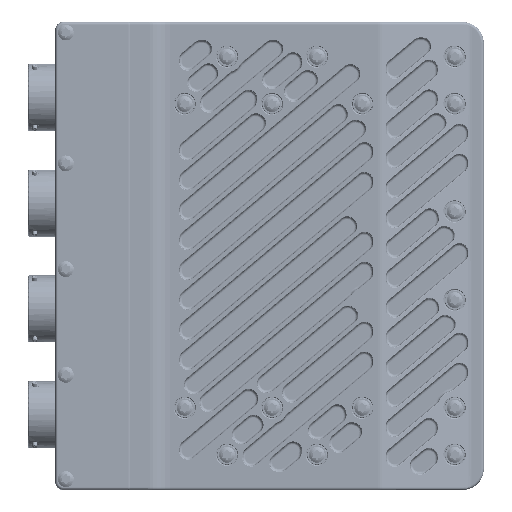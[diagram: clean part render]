
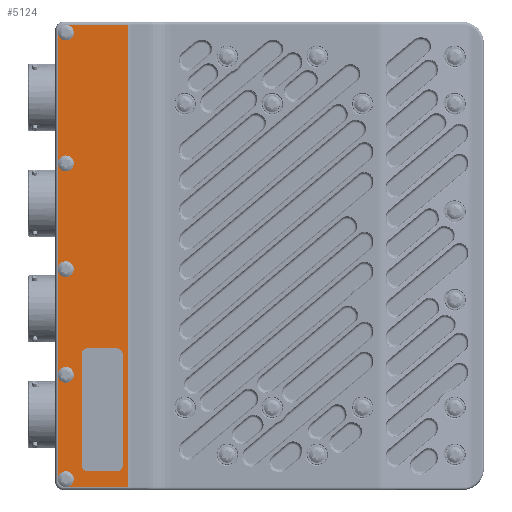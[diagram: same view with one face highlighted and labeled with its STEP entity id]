
A CAD part, top view. The second image highlights one B-rep face of the part: STEP entity #5124.
In plain terms, the highlighted planar face has unit normal (0, 0, 1).
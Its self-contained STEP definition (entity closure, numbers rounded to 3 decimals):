
#4895=AXIS2_PLACEMENT_3D('Plane Axis2P3D',#4892,#4893,#4894) ;
#4908=AXIS2_PLACEMENT_3D('Circle Axis2P3D',#4906,#4907,$) ;
#4915=AXIS2_PLACEMENT_3D('Circle Axis2P3D',#4913,#4914,$) ;
#4922=AXIS2_PLACEMENT_3D('Circle Axis2P3D',#4920,#4921,$) ;
#4941=AXIS2_PLACEMENT_3D('Circle Axis2P3D',#4939,#4940,$) ;
#4948=AXIS2_PLACEMENT_3D('Circle Axis2P3D',#4946,#4947,$) ;
#4997=AXIS2_PLACEMENT_3D('Circle Axis2P3D',#4995,#4996,$) ;
#5011=AXIS2_PLACEMENT_3D('Circle Axis2P3D',#5009,#5010,$) ;
#5025=AXIS2_PLACEMENT_3D('Circle Axis2P3D',#5023,#5024,$) ;
#5039=AXIS2_PLACEMENT_3D('Circle Axis2P3D',#5037,#5038,$) ;
#5054=AXIS2_PLACEMENT_3D('Circle Axis2P3D',#5052,#5053,$) ;
#5061=AXIS2_PLACEMENT_3D('Circle Axis2P3D',#5059,#5060,$) ;
#5068=AXIS2_PLACEMENT_3D('Circle Axis2P3D',#5066,#5067,$) ;
#5078=AXIS2_PLACEMENT_3D('Circle Axis2P3D',#5076,#5077,$) ;
#5085=AXIS2_PLACEMENT_3D('Circle Axis2P3D',#5083,#5084,$) ;
#5092=AXIS2_PLACEMENT_3D('Circle Axis2P3D',#5090,#5091,$) ;
#5102=AXIS2_PLACEMENT_3D('Circle Axis2P3D',#5100,#5101,$) ;
#5109=AXIS2_PLACEMENT_3D('Circle Axis2P3D',#5107,#5108,$) ;
#5116=AXIS2_PLACEMENT_3D('Circle Axis2P3D',#5114,#5115,$) ;
#2069=CARTESIAN_POINT('Vertex',(14.129,-87.5,38.5)) ;
#2072=CARTESIAN_POINT('Line Origine',(1.855,-87.5,38.5)) ;
#2076=CARTESIAN_POINT('Vertex',(-9.42,-87.5,38.5)) ;
#4892=CARTESIAN_POINT('Axis2P3D Location',(0.,0.,38.5)) ;
#4897=CARTESIAN_POINT('Line Origine',(-12.42,-64.75,38.5)) ;
#4901=CARTESIAN_POINT('Vertex',(-12.42,-45.,38.5)) ;
#4903=CARTESIAN_POINT('Vertex',(-12.42,-84.5,38.5)) ;
#4906=CARTESIAN_POINT('Axis2P3D Location',(-9.42,-84.5,38.5)) ;
#4910=CARTESIAN_POINT('Vertex',(-12.053,-83.062,38.5)) ;
#4913=CARTESIAN_POINT('Axis2P3D Location',(-9.42,-84.5,38.5)) ;
#4917=CARTESIAN_POINT('Vertex',(-6.787,-85.938,38.5)) ;
#4920=CARTESIAN_POINT('Axis2P3D Location',(-9.42,-84.5,38.5)) ;
#4925=CARTESIAN_POINT('Line Origine',(14.129,0.,38.5)) ;
#4929=CARTESIAN_POINT('Vertex',(14.129,87.5,38.5)) ;
#4932=CARTESIAN_POINT('Line Origine',(2.355,87.5,38.5)) ;
#4936=CARTESIAN_POINT('Vertex',(-9.42,87.5,38.5)) ;
#4939=CARTESIAN_POINT('Axis2P3D Location',(-9.42,84.5,38.5)) ;
#4943=CARTESIAN_POINT('Vertex',(-6.787,83.062,38.5)) ;
#4946=CARTESIAN_POINT('Axis2P3D Location',(-9.42,84.5,38.5)) ;
#4950=CARTESIAN_POINT('Vertex',(-12.42,84.5,38.5)) ;
#4953=CARTESIAN_POINT('Line Origine',(-12.42,59.75,38.5)) ;
#4957=CARTESIAN_POINT('Vertex',(-12.42,35.,38.5)) ;
#4960=CARTESIAN_POINT('Line Origine',(-12.42,15.,38.5)) ;
#4964=CARTESIAN_POINT('Vertex',(-12.42,-5.,38.5)) ;
#4967=CARTESIAN_POINT('Line Origine',(-12.42,-25.,38.5)) ;
#4986=CARTESIAN_POINT('Line Origine',(12.08,-58.25,38.5)) ;
#4990=CARTESIAN_POINT('Vertex',(12.08,-37.2,38.5)) ;
#4992=CARTESIAN_POINT('Vertex',(12.08,-79.3,38.5)) ;
#4995=CARTESIAN_POINT('Axis2P3D Location',(9.88,-79.3,38.5)) ;
#4999=CARTESIAN_POINT('Vertex',(9.88,-81.5,38.5)) ;
#5002=CARTESIAN_POINT('Line Origine',(4.33,-81.5,38.5)) ;
#5006=CARTESIAN_POINT('Vertex',(-1.22,-81.5,38.5)) ;
#5009=CARTESIAN_POINT('Axis2P3D Location',(-1.22,-79.3,38.5)) ;
#5013=CARTESIAN_POINT('Vertex',(-3.42,-79.3,38.5)) ;
#5016=CARTESIAN_POINT('Line Origine',(-3.42,-58.25,38.5)) ;
#5020=CARTESIAN_POINT('Vertex',(-3.42,-37.2,38.5)) ;
#5023=CARTESIAN_POINT('Axis2P3D Location',(-1.22,-37.2,38.5)) ;
#5027=CARTESIAN_POINT('Vertex',(-1.22,-35.,38.5)) ;
#5030=CARTESIAN_POINT('Line Origine',(4.33,-35.,38.5)) ;
#5034=CARTESIAN_POINT('Vertex',(9.88,-35.,38.5)) ;
#5037=CARTESIAN_POINT('Axis2P3D Location',(9.88,-37.2,38.5)) ;
#5052=CARTESIAN_POINT('Axis2P3D Location',(-9.42,-45.,38.5)) ;
#5056=CARTESIAN_POINT('Vertex',(-12.053,-43.562,38.5)) ;
#5059=CARTESIAN_POINT('Axis2P3D Location',(-9.42,-45.,38.5)) ;
#5063=CARTESIAN_POINT('Vertex',(-6.787,-46.438,38.5)) ;
#5066=CARTESIAN_POINT('Axis2P3D Location',(-9.42,-45.,38.5)) ;
#5076=CARTESIAN_POINT('Axis2P3D Location',(-9.42,35.,38.5)) ;
#5080=CARTESIAN_POINT('Vertex',(-12.053,36.438,38.5)) ;
#5083=CARTESIAN_POINT('Axis2P3D Location',(-9.42,35.,38.5)) ;
#5087=CARTESIAN_POINT('Vertex',(-6.787,33.562,38.5)) ;
#5090=CARTESIAN_POINT('Axis2P3D Location',(-9.42,35.,38.5)) ;
#5100=CARTESIAN_POINT('Axis2P3D Location',(-9.42,-5.,38.5)) ;
#5104=CARTESIAN_POINT('Vertex',(-12.053,-3.562,38.5)) ;
#5107=CARTESIAN_POINT('Axis2P3D Location',(-9.42,-5.,38.5)) ;
#5111=CARTESIAN_POINT('Vertex',(-6.787,-6.438,38.5)) ;
#5114=CARTESIAN_POINT('Axis2P3D Location',(-9.42,-5.,38.5)) ;
#2073=DIRECTION('Vector Direction',(1.,0.,0.)) ;
#4893=DIRECTION('Axis2P3D Direction',(0.,0.,1.)) ;
#4894=DIRECTION('Axis2P3D XDirection',(1.,0.,0.)) ;
#4898=DIRECTION('Vector Direction',(0.,1.,0.)) ;
#4907=DIRECTION('Axis2P3D Direction',(0.,0.,1.)) ;
#4914=DIRECTION('Axis2P3D Direction',(0.,0.,1.)) ;
#4921=DIRECTION('Axis2P3D Direction',(0.,0.,1.)) ;
#4926=DIRECTION('Vector Direction',(0.,1.,0.)) ;
#4933=DIRECTION('Vector Direction',(-1.,0.,0.)) ;
#4940=DIRECTION('Axis2P3D Direction',(0.,0.,1.)) ;
#4947=DIRECTION('Axis2P3D Direction',(0.,0.,1.)) ;
#4954=DIRECTION('Vector Direction',(0.,1.,0.)) ;
#4961=DIRECTION('Vector Direction',(0.,1.,0.)) ;
#4968=DIRECTION('Vector Direction',(0.,1.,0.)) ;
#4987=DIRECTION('Vector Direction',(0.,-1.,0.)) ;
#4996=DIRECTION('Axis2P3D Direction',(0.,0.,1.)) ;
#5003=DIRECTION('Vector Direction',(-1.,0.,0.)) ;
#5010=DIRECTION('Axis2P3D Direction',(0.,0.,1.)) ;
#5017=DIRECTION('Vector Direction',(0.,1.,0.)) ;
#5024=DIRECTION('Axis2P3D Direction',(0.,0.,1.)) ;
#5031=DIRECTION('Vector Direction',(1.,0.,0.)) ;
#5038=DIRECTION('Axis2P3D Direction',(0.,0.,1.)) ;
#5053=DIRECTION('Axis2P3D Direction',(0.,0.,1.)) ;
#5060=DIRECTION('Axis2P3D Direction',(0.,0.,1.)) ;
#5067=DIRECTION('Axis2P3D Direction',(0.,0.,1.)) ;
#5077=DIRECTION('Axis2P3D Direction',(0.,0.,1.)) ;
#5084=DIRECTION('Axis2P3D Direction',(0.,0.,1.)) ;
#5091=DIRECTION('Axis2P3D Direction',(0.,0.,1.)) ;
#5101=DIRECTION('Axis2P3D Direction',(0.,0.,1.)) ;
#5108=DIRECTION('Axis2P3D Direction',(0.,0.,1.)) ;
#5115=DIRECTION('Axis2P3D Direction',(0.,0.,1.)) ;
#2074=VECTOR('Line Direction',#2073,1.) ;
#4899=VECTOR('Line Direction',#4898,1.) ;
#4927=VECTOR('Line Direction',#4926,1.) ;
#4934=VECTOR('Line Direction',#4933,1.) ;
#4955=VECTOR('Line Direction',#4954,1.) ;
#4962=VECTOR('Line Direction',#4961,1.) ;
#4969=VECTOR('Line Direction',#4968,1.) ;
#4988=VECTOR('Line Direction',#4987,1.) ;
#5004=VECTOR('Line Direction',#5003,1.) ;
#5018=VECTOR('Line Direction',#5017,1.) ;
#5032=VECTOR('Line Direction',#5031,1.) ;
#4973=ORIENTED_EDGE('',*,*,#4905,.T.) ;
#4974=ORIENTED_EDGE('',*,*,#4912,.F.) ;
#4975=ORIENTED_EDGE('',*,*,#4919,.F.) ;
#4976=ORIENTED_EDGE('',*,*,#4924,.F.) ;
#4977=ORIENTED_EDGE('',*,*,#2078,.T.) ;
#4978=ORIENTED_EDGE('',*,*,#4931,.F.) ;
#4979=ORIENTED_EDGE('',*,*,#4938,.T.) ;
#4980=ORIENTED_EDGE('',*,*,#4945,.F.) ;
#4981=ORIENTED_EDGE('',*,*,#4952,.F.) ;
#4982=ORIENTED_EDGE('',*,*,#4959,.T.) ;
#4983=ORIENTED_EDGE('',*,*,#4966,.T.) ;
#4984=ORIENTED_EDGE('',*,*,#4971,.T.) ;
#5043=ORIENTED_EDGE('',*,*,#4994,.T.) ;
#5044=ORIENTED_EDGE('',*,*,#5001,.F.) ;
#5045=ORIENTED_EDGE('',*,*,#5008,.T.) ;
#5046=ORIENTED_EDGE('',*,*,#5015,.F.) ;
#5047=ORIENTED_EDGE('',*,*,#5022,.T.) ;
#5048=ORIENTED_EDGE('',*,*,#5029,.F.) ;
#5049=ORIENTED_EDGE('',*,*,#5036,.T.) ;
#5050=ORIENTED_EDGE('',*,*,#5041,.F.) ;
#5072=ORIENTED_EDGE('',*,*,#5058,.F.) ;
#5073=ORIENTED_EDGE('',*,*,#5065,.F.) ;
#5074=ORIENTED_EDGE('',*,*,#5070,.F.) ;
#5096=ORIENTED_EDGE('',*,*,#5082,.F.) ;
#5097=ORIENTED_EDGE('',*,*,#5089,.F.) ;
#5098=ORIENTED_EDGE('',*,*,#5094,.F.) ;
#5120=ORIENTED_EDGE('',*,*,#5106,.F.) ;
#5121=ORIENTED_EDGE('',*,*,#5113,.F.) ;
#5122=ORIENTED_EDGE('',*,*,#5118,.F.) ;
#5051=FACE_BOUND('',#5042,.T.) ;
#5075=FACE_BOUND('',#5071,.T.) ;
#5099=FACE_BOUND('',#5095,.T.) ;
#5123=FACE_BOUND('',#5119,.T.) ;
#5124=ADVANCED_FACE('LFR-565-01_F90F_CASE_LOWER.1\\F90F Installation',(#4985,#5051,#5075,#5099,#5123),#4896,.T.) ;
#4909=CIRCLE('generated circle',#4908,3.) ;
#4916=CIRCLE('generated circle',#4915,3.) ;
#4923=CIRCLE('generated circle',#4922,3.) ;
#4942=CIRCLE('generated circle',#4941,3.) ;
#4949=CIRCLE('generated circle',#4948,3.) ;
#4998=CIRCLE('generated circle',#4997,2.2) ;
#5012=CIRCLE('generated circle',#5011,2.2) ;
#5026=CIRCLE('generated circle',#5025,2.2) ;
#5040=CIRCLE('generated circle',#5039,2.2) ;
#5055=CIRCLE('generated circle',#5054,3.) ;
#5062=CIRCLE('generated circle',#5061,3.) ;
#5069=CIRCLE('generated circle',#5068,3.) ;
#5079=CIRCLE('generated circle',#5078,3.) ;
#5086=CIRCLE('generated circle',#5085,3.) ;
#5093=CIRCLE('generated circle',#5092,3.) ;
#5103=CIRCLE('generated circle',#5102,3.) ;
#5110=CIRCLE('generated circle',#5109,3.) ;
#5117=CIRCLE('generated circle',#5116,3.) ;
#2078=EDGE_CURVE('',#2077,#2070,#2075,.T.) ;
#4905=EDGE_CURVE('',#4902,#4904,#4900,.F.) ;
#4912=EDGE_CURVE('',#4911,#4904,#4909,.T.) ;
#4919=EDGE_CURVE('',#4918,#4911,#4916,.T.) ;
#4924=EDGE_CURVE('',#2077,#4918,#4923,.T.) ;
#4931=EDGE_CURVE('',#4930,#2070,#4928,.F.) ;
#4938=EDGE_CURVE('',#4930,#4937,#4935,.T.) ;
#4945=EDGE_CURVE('',#4944,#4937,#4942,.T.) ;
#4952=EDGE_CURVE('',#4951,#4944,#4949,.T.) ;
#4959=EDGE_CURVE('',#4951,#4958,#4956,.F.) ;
#4966=EDGE_CURVE('',#4958,#4965,#4963,.F.) ;
#4971=EDGE_CURVE('',#4965,#4902,#4970,.F.) ;
#4994=EDGE_CURVE('',#4991,#4993,#4989,.T.) ;
#5001=EDGE_CURVE('',#5000,#4993,#4998,.T.) ;
#5008=EDGE_CURVE('',#5000,#5007,#5005,.T.) ;
#5015=EDGE_CURVE('',#5014,#5007,#5012,.T.) ;
#5022=EDGE_CURVE('',#5014,#5021,#5019,.T.) ;
#5029=EDGE_CURVE('',#5028,#5021,#5026,.T.) ;
#5036=EDGE_CURVE('',#5028,#5035,#5033,.T.) ;
#5041=EDGE_CURVE('',#4991,#5035,#5040,.T.) ;
#5058=EDGE_CURVE('',#5057,#4902,#5055,.T.) ;
#5065=EDGE_CURVE('',#5064,#5057,#5062,.T.) ;
#5070=EDGE_CURVE('',#4902,#5064,#5069,.T.) ;
#5082=EDGE_CURVE('',#5081,#4958,#5079,.T.) ;
#5089=EDGE_CURVE('',#5088,#5081,#5086,.T.) ;
#5094=EDGE_CURVE('',#4958,#5088,#5093,.T.) ;
#5106=EDGE_CURVE('',#5105,#4965,#5103,.T.) ;
#5113=EDGE_CURVE('',#5112,#5105,#5110,.T.) ;
#5118=EDGE_CURVE('',#4965,#5112,#5117,.T.) ;
#4972=EDGE_LOOP('',(#4973,#4974,#4975,#4976,#4977,#4978,#4979,#4980,#4981,#4982,#4983,#4984)) ;
#5042=EDGE_LOOP('',(#5043,#5044,#5045,#5046,#5047,#5048,#5049,#5050)) ;
#5071=EDGE_LOOP('',(#5072,#5073,#5074)) ;
#5095=EDGE_LOOP('',(#5096,#5097,#5098)) ;
#5119=EDGE_LOOP('',(#5120,#5121,#5122)) ;
#4985=FACE_OUTER_BOUND('',#4972,.T.) ;
#2075=LINE('Line',#2072,#2074) ;
#4900=LINE('Line',#4897,#4899) ;
#4928=LINE('Line',#4925,#4927) ;
#4935=LINE('Line',#4932,#4934) ;
#4956=LINE('Line',#4953,#4955) ;
#4963=LINE('Line',#4960,#4962) ;
#4970=LINE('Line',#4967,#4969) ;
#4989=LINE('Line',#4986,#4988) ;
#5005=LINE('Line',#5002,#5004) ;
#5019=LINE('Line',#5016,#5018) ;
#5033=LINE('Line',#5030,#5032) ;
#4896=PLANE('Plane',#4895) ;
#2070=VERTEX_POINT('',#2069) ;
#2077=VERTEX_POINT('',#2076) ;
#4902=VERTEX_POINT('',#4901) ;
#4904=VERTEX_POINT('',#4903) ;
#4911=VERTEX_POINT('',#4910) ;
#4918=VERTEX_POINT('',#4917) ;
#4930=VERTEX_POINT('',#4929) ;
#4937=VERTEX_POINT('',#4936) ;
#4944=VERTEX_POINT('',#4943) ;
#4951=VERTEX_POINT('',#4950) ;
#4958=VERTEX_POINT('',#4957) ;
#4965=VERTEX_POINT('',#4964) ;
#4991=VERTEX_POINT('',#4990) ;
#4993=VERTEX_POINT('',#4992) ;
#5000=VERTEX_POINT('',#4999) ;
#5007=VERTEX_POINT('',#5006) ;
#5014=VERTEX_POINT('',#5013) ;
#5021=VERTEX_POINT('',#5020) ;
#5028=VERTEX_POINT('',#5027) ;
#5035=VERTEX_POINT('',#5034) ;
#5057=VERTEX_POINT('',#5056) ;
#5064=VERTEX_POINT('',#5063) ;
#5081=VERTEX_POINT('',#5080) ;
#5088=VERTEX_POINT('',#5087) ;
#5105=VERTEX_POINT('',#5104) ;
#5112=VERTEX_POINT('',#5111) ;
